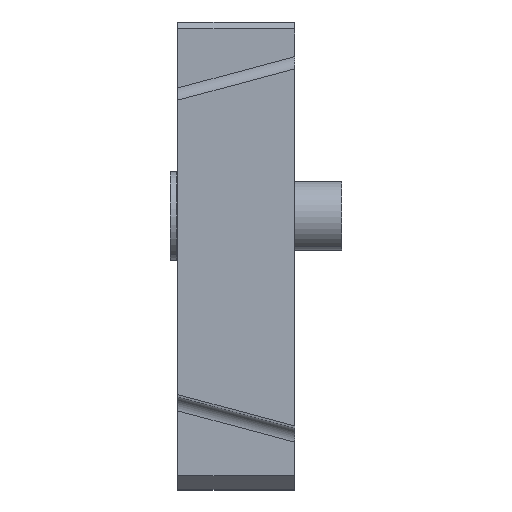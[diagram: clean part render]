
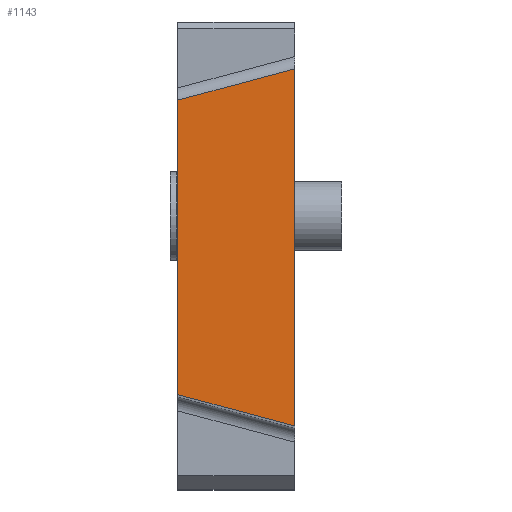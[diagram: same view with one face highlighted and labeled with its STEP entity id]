
A CAD part, top view. The second image highlights one B-rep face of the part: STEP entity #1143.
In plain terms, the highlighted planar face has unit normal (0, 0, 1).
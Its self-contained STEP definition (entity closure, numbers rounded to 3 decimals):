
#1123=AXIS2_PLACEMENT_3D('Plane Axis2P3D',#1120,#1121,#1122) ;
#892=CARTESIAN_POINT('Vertex',(-8.5,2.278,0.)) ;
#895=CARTESIAN_POINT('Line Origine',(-8.5,12.985,0.)) ;
#899=CARTESIAN_POINT('Vertex',(-8.5,23.692,0.)) ;
#1101=CARTESIAN_POINT('Line Origine',(-4.25,24.831,0.)) ;
#1105=CARTESIAN_POINT('Vertex',(0.,25.97,0.)) ;
#1120=CARTESIAN_POINT('Axis2P3D Location',(-6.5,29.53,0.)) ;
#1125=CARTESIAN_POINT('Line Origine',(-4.25,1.139,0.)) ;
#1129=CARTESIAN_POINT('Vertex',(0.,0.,0.)) ;
#1132=CARTESIAN_POINT('Line Origine',(0.,12.985,0.)) ;
#896=DIRECTION('Vector Direction',(0.,-1.,0.)) ;
#1102=DIRECTION('Vector Direction',(-0.966,-0.259,0.)) ;
#1121=DIRECTION('Axis2P3D Direction',(-0.,-0.,-1.)) ;
#1122=DIRECTION('Axis2P3D XDirection',(0.,-1.,0.)) ;
#1126=DIRECTION('Vector Direction',(-0.966,0.259,0.)) ;
#1133=DIRECTION('Vector Direction',(0.,1.,0.)) ;
#897=VECTOR('Line Direction',#896,1.) ;
#1103=VECTOR('Line Direction',#1102,1.) ;
#1127=VECTOR('Line Direction',#1126,1.) ;
#1134=VECTOR('Line Direction',#1133,1.) ;
#1138=ORIENTED_EDGE('',*,*,#1107,.T.) ;
#1139=ORIENTED_EDGE('',*,*,#901,.F.) ;
#1140=ORIENTED_EDGE('',*,*,#1131,.F.) ;
#1141=ORIENTED_EDGE('',*,*,#1136,.T.) ;
#1143=ADVANCED_FACE('NO_CUT',(#1142),#1124,.F.) ;
#901=EDGE_CURVE('',#893,#900,#898,.F.) ;
#1107=EDGE_CURVE('',#1106,#900,#1104,.T.) ;
#1131=EDGE_CURVE('',#1130,#893,#1128,.T.) ;
#1136=EDGE_CURVE('',#1130,#1106,#1135,.T.) ;
#1137=EDGE_LOOP('',(#1138,#1139,#1140,#1141)) ;
#1142=FACE_OUTER_BOUND('',#1137,.T.) ;
#898=LINE('Line',#895,#897) ;
#1104=LINE('Line',#1101,#1103) ;
#1128=LINE('Line',#1125,#1127) ;
#1135=LINE('Line',#1132,#1134) ;
#1124=PLANE('Plane',#1123) ;
#893=VERTEX_POINT('',#892) ;
#900=VERTEX_POINT('',#899) ;
#1106=VERTEX_POINT('',#1105) ;
#1130=VERTEX_POINT('',#1129) ;
